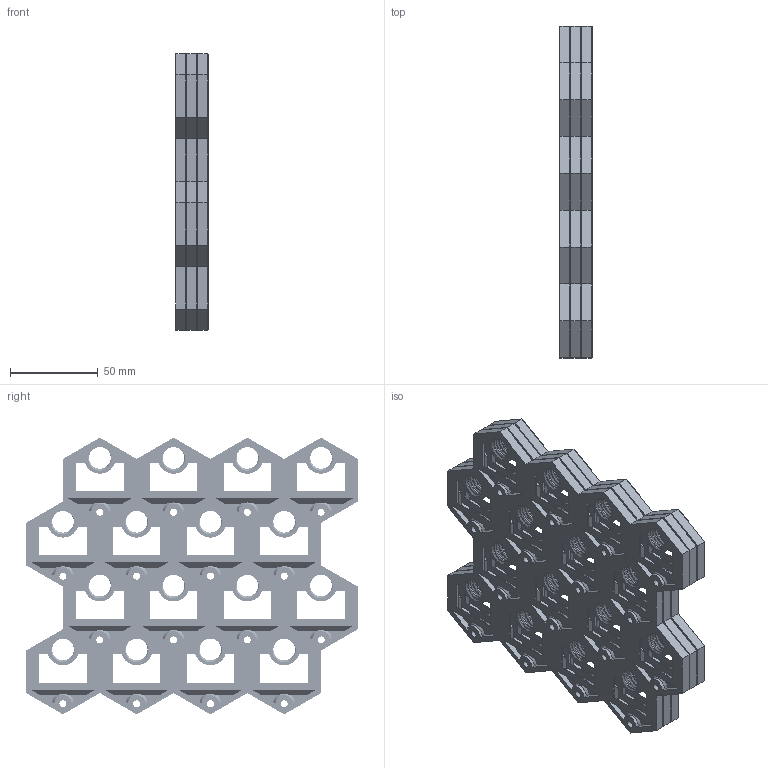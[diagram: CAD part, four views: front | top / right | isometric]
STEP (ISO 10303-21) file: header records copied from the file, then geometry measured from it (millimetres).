
FILE_DESCRIPTION(/* description */ ('','CAx-IF Rec.Pracs.---Representation and Presentation of Product Manufacturing Information (PMI)---4.0---2014-10-13'),/* implementation_level */ '2;1');
FILE_NAME(/* name */ 'GOEWS 4x4 Tile Stack with 0.2 Gaps.step',/* time_stamp */ '2024-11-29T15:31:52-05:00',/* author */ (''),/* organization */ (''),/* preprocessor_version */ 'ST-DEVELOPER v20',/* originating_system */ 'Autodesk Translation Framework v13.20.0.188',/* authorisation */ '');
FILE_SCHEMA (('AP242_MANAGED_MODEL_BASED_3D_ENGINEERING_MIM_LF { 1 0 10303 442 1 1 4 }'));
Products named in the file (1): GOEWS Parametric Tile Stack with Gaps
Bounding box: 18.4 x 189 x 157.62 mm (x, y, z)
Volume: 219974.7 mm3; surface area: 167137.6 mm2
Topology: 3 solids, 3 shells, 2541 faces, 6975 edges, 4488 vertices
Faces by surface type: plane 1725, cylinder 576, cone 144, bspline 96
Full cylindrical faces by diameter (mm): 4 x48, 8 x48, 12.322 x96, 14.55 x96
Entity records: 135728 total; most frequent: CARTESIAN_POINT 73045, ORIENTED_EDGE 13950, DIRECTION 11387, EDGE_CURVE 6975, LINE 4959, VECTOR 4959, VERTEX_POINT 4488, AXIS2_PLACEMENT_3D 3214
